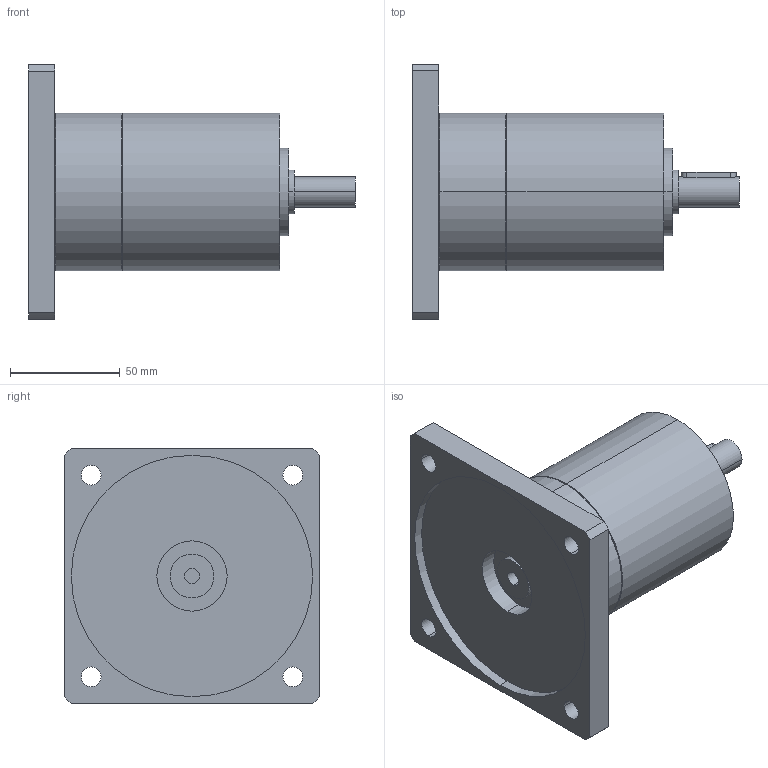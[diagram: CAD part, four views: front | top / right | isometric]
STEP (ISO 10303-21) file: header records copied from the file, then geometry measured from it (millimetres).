
FILE_DESCRIPTION(('CoCreate Modeling STEP Export'),'2;1');
FILE_NAME('GPT75_ig-9-12-16-20-25-28-35-40-50-70-100_14_B14T_7_P09.stp','2014-08-27T13:23:13',(''),(''),'CoCreate Modeling STEP processor for AP214 (Solid Model)','CoCreate Modeling 16.00C 25-Feb-2009 (C) Parametric Technology GmbH','');
FILE_SCHEMA(('AUTOMOTIVE_DESIGN { 1 0 10303 214 1 1 1 1 }'));
Length unit declared in the file: millimetre
Products named in the file (2): GPT75_ig-9-12-16-20-25-28-35-40-50-70-100_14_B14T_7_P09
Assembly tree (1 placements, depth 2):
  GPT75_ig-9-12-16-20-25-28-35-40-50-70-100_14_B14T_7_P09
    GPT75_ig-9-12-16-20-25-28-35-40-50-70-100_14_B14T_7_P09
Bounding box: 149 x 116 x 116 mm (x, y, z)
Volume: 535922 mm3; surface area: 62786.3 mm2
Topology: 1 solids, 1 shells, 69 faces, 166 edges, 113 vertices
Faces by surface type: cylinder 42, plane 23, cone 4
Entity records: 2161 total; most frequent: CARTESIAN_POINT 664, ORIENTED_EDGE 332, DIRECTION 262, EDGE_CURVE 166, VERTEX_POINT 113, AXIS2_PLACEMENT_3D 99, EDGE_LOOP 91, FACE_OUTER_BOUND 69
